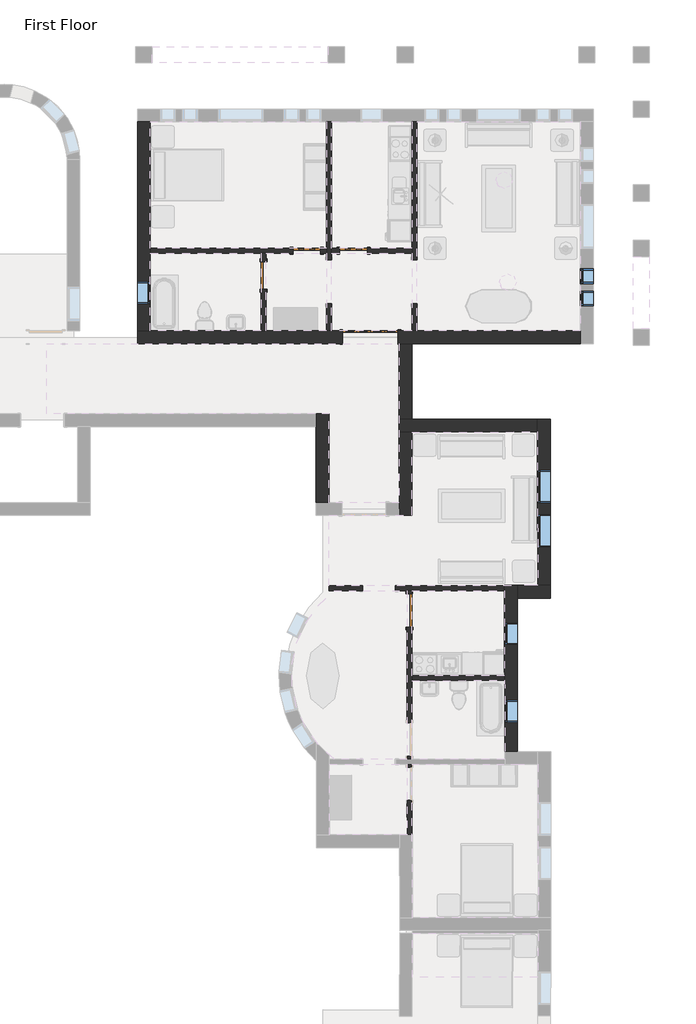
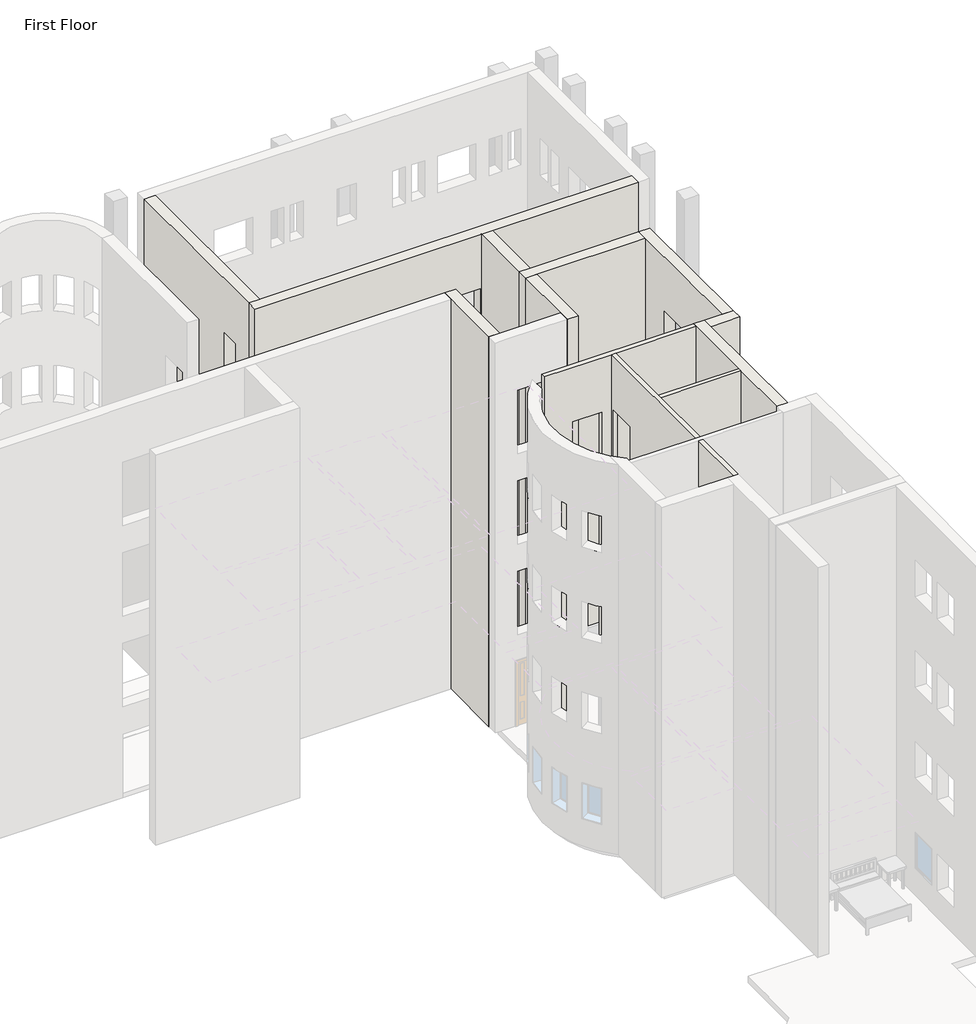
# One storey, part 13 of 23: 16 walls, 7 windows, 5 doors.
"""IFC4 building model written with IfcOpenShell, lengths in millimetres."""

from ifc_helpers import new_model, si_unit, frame, origin, origin_with_axes, place, context, project, spatial, polyline, outline, extrude, faceted_brep, transform, mapped, element, save
from components import m_bifold_4_panel_1525_x_2134mm_1ddae71f, m_single_decorative_2_0762_x_2134mm_0d0af7cb, m_single_decorative_2_0762_x_2134mm_2fe67c8e, m_single_flush_0762_x_2134mm_0d89e411, m_single_flush_0915_x_2134mm_ab9b6334, m_fixed_0406_x_1220mm_85c28f40, m_fixed_0610_x_1220mm_2c28ef1d, m_fixed_0610_x_1220mm_1ea27827, m_fixed_0915_x_1220mm_2a2509e7

model = new_model("IFC4")

# Units and contexts
model_context = context("Model", 3, world=origin())
ifc_project = project(units=[si_unit("LENGTHUNIT", "METRE", prefix="MILLI")], contexts=[model_context])

# Site, building, storey
site = spatial("IfcSite", under=ifc_project)
building = spatial("IfcBuilding", under=site)
storey = spatial("IfcBuildingStorey", under=building, Name="First Floor", Elevation=0.0)

# Doors
placement = place(None, origin())
m_bifold_4_panel_1525_x_2134mm_shape = m_bifold_4_panel_1525_x_2134mm_1ddae71f(model_context)
element("IfcDoor", 1, ObjectType="M_Bifold-4 Panel : 1525 x 2134mm", at=placement, inside=storey, context=model_context, shape_type="MappedRepresentation", body=[
    mapped(m_bifold_4_panel_1525_x_2134mm_shape, transform((-8876.0916203, -3514.8811614, 0.0), x_axis=(1.0, 0.0, 0.0), y_axis=(0.0, 1.0, 0.0), z_axis=(0.0, 0.0, 1.0))),
])
m_single_decorative_2_0762_x_2134mm_shape = m_single_decorative_2_0762_x_2134mm_0d0af7cb(model_context)
element("IfcDoor", 2, ObjectType="M_Single-Decorative 2 : 0762 x 2134mm", at=placement, inside=storey, context=model_context, shape_type="MappedRepresentation", body=[
    mapped(m_single_decorative_2_0762_x_2134mm_shape, transform((-9342.3416203, -1138.1311614, 0.0), x_axis=(-1.0, 0.0, 0.0), y_axis=(0.0, -1.0, 0.0), z_axis=(0.0, 0.0, 1.0))),
])
m_single_decorative_2_0762_x_2134mm_2_shape = m_single_decorative_2_0762_x_2134mm_2fe67c8e(model_context)
element("IfcDoor", 3, ObjectType="M_Single-Decorative 2 : 0762 x 2134mm", at=placement, inside=storey, context=model_context, shape_type="MappedRepresentation", body=[
    mapped(m_single_decorative_2_0762_x_2134mm_2_shape, transform((-10629.0916203, -1138.1311614, 0.0), x_axis=(1.0, 0.0, 0.0), y_axis=(0.0, 1.0, 0.0), z_axis=(0.0, 0.0, 1.0))),
])
m_single_flush_0762_x_2134mm_shape = m_single_flush_0762_x_2134mm_0d89e411(model_context)
element("IfcDoor", 4, ObjectType="M_Single-Flush : 0762 x 2134mm", at=placement, inside=storey, context=model_context, shape_type="MappedRepresentation", body=[
    mapped(m_single_flush_0762_x_2134mm_shape, transform((-11819.5916203, -1815.8811614, 0.0), x_axis=(0.0, 1.0, 0.0), y_axis=(-1.0, 0.0, 0.0), z_axis=(0.0, 0.0, 1.0))),
])
m_single_flush_0915_x_2134mm_shape = m_single_flush_0915_x_2134mm_ab9b6334(model_context)
element("IfcDoor", 5, ObjectType="M_Single-Flush : 0915 x 2134mm", at=placement, inside=storey, context=model_context, shape_type="MappedRepresentation", body=[
    mapped(m_single_flush_0915_x_2134mm_shape, transform((-7803.7915984, -11034.8800064, 0.0), x_axis=(-0.0014474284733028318, 0.9999989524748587, 0.0), y_axis=(-0.9999989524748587, -0.0014474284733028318, 0.0), z_axis=(0.0, 0.0, 1.0))),
])

# Walls
element("IfcWall", 6, ObjectType="Exterior - Brick on Mtl. Stud", at=placement, inside=storey, context=model_context, shape_type="Brep", body=[
    faceted_brep([(-15285.3416203, -3339.8811614, 13107.0), (-14935.3416203, -3339.8811614, 13107.0), (-3093.3416203, -3339.8811614, 13107.0), (-3093.3416203, -3339.8811614, 0.0), (-7597.5916203, -3339.8811614, 0.0), (-7733.0916203, -3339.8811614, 0.0), (-8113.5916203, -3339.8811614, 0.0), (-8113.5916203, -3339.8811614, 2134.0), (-9638.5916203, -3339.8811614, 2134.0), (-9638.5916203, -3339.8811614, 0.0), (-9951.3416203, -3339.8811614, 0.0), (-10086.8416203, -3339.8811614, 0.0), (-11751.8416203, -3339.8811614, 0.0), (-11887.3416203, -3339.8811614, 0.0), (-14935.3416203, -3339.8811614, 0.0), (-15285.3416203, -3339.8811614, 0.0), (-8113.5916203, -3339.8811614, 9144.0), (-8113.5916203, -3339.8811614, 11278.0), (-9638.5916203, -3339.8811614, 11278.0), (-9638.5916203, -3339.8811614, 9144.0), (-8113.5916203, -3339.8811614, 3048.0), (-8113.5916203, -3339.8811614, 5182.0), (-9638.5916203, -3339.8811614, 5182.0), (-9638.5916203, -3339.8811614, 3048.0), (-8113.5916203, -3339.8811614, 6096.0), (-8113.5916203, -3339.8811614, 8230.0), (-9638.5916203, -3339.8811614, 8230.0), (-9638.5916203, -3339.8811614, 6096.0), (-3093.3416203, -3689.8811614, 13107.0), (-15285.3416203, -3689.8811614, 13107.0), (-15285.3416203, -3689.8811614, 0.0), (-9638.5916203, -3689.8811614, 0.0), (-9638.5916203, -3689.8811614, 2134.0), (-8113.5916203, -3689.8811614, 2134.0), (-8113.5916203, -3689.8811614, 0.0), (-3093.3416203, -3689.8811614, 0.0), (-8113.5916203, -3689.8811614, 9144.0), (-9638.5916203, -3689.8811614, 9144.0), (-9638.5916203, -3689.8811614, 11278.0), (-8113.5916203, -3689.8811614, 11278.0), (-8113.5916203, -3689.8811614, 3048.0), (-9638.5916203, -3689.8811614, 3048.0), (-9638.5916203, -3689.8811614, 5182.0), (-8113.5916203, -3689.8811614, 5182.0), (-8113.5916203, -3689.8811614, 6096.0), (-9638.5916203, -3689.8811614, 6096.0), (-9638.5916203, -3689.8811614, 8230.0), (-8113.5916203, -3689.8811614, 8230.0)], [[[0, 1, 2, 3, 4, 5, 6, 7, 8, 9, 10, 11, 12, 13, 14, 15], [16, 17, 18, 19], [20, 21, 22, 23], [24, 25, 26, 27]], [[28, 29, 30, 31, 32, 33, 34, 35], [36, 37, 38, 39], [40, 41, 42, 43], [44, 45, 46, 47]], [[30, 15, 14, 13, 12, 11, 10, 9, 31]], [[3, 35, 34, 6, 5, 4]], [[2, 1, 0, 29, 28]], [[33, 7, 6, 34]], [[7, 33, 32, 8]], [[8, 32, 31, 9]], [[17, 16, 36, 39]], [[18, 17, 39, 38]], [[19, 18, 38, 37]], [[16, 19, 37, 36]], [[21, 20, 40, 43]], [[22, 21, 43, 42]], [[23, 22, 42, 41]], [[20, 23, 41, 40]], [[25, 24, 44, 47]], [[26, 25, 47, 46]], [[27, 26, 46, 45]], [[24, 27, 45, 44]], [[0, 15, 30, 29]], [[3, 2, 28, 35]]]),
])
element("IfcWall", 7, ObjectType="Exterior - Brick on Mtl. Stud", at=placement, inside=storey, context=model_context, shape_type="Brep", body=[
    faceted_brep([(-14935.3416203, -3339.8811614, 0.0), (-14935.3416203, -1205.8811614, 0.0), (-14935.3416203, -1070.3811614, 0.0), (-14935.3416203, 2406.1188386, 0.0), (-14935.3416203, 2406.1188386, 13107.0), (-14935.3416203, -3339.8811614, 13107.0), (-14935.3416203, -1989.8811614, 915.0), (-14935.3416203, -2599.8811614, 915.0), (-14935.3416203, -2599.8811614, 2135.0), (-14935.3416203, -1989.8811614, 2135.0), (-14935.3416203, -1989.8811614, 10059.0), (-14935.3416203, -2599.8811614, 10059.0), (-14935.3416203, -2599.8811614, 11279.0), (-14935.3416203, -1989.8811614, 11279.0), (-14935.3416203, -1989.8811614, 3963.0), (-14935.3416203, -2599.8811614, 3963.0), (-14935.3416203, -2599.8811614, 5183.0), (-14935.3416203, -1989.8811614, 5183.0), (-14935.3416203, -1989.8811614, 7011.0), (-14935.3416203, -2599.8811614, 7011.0), (-14935.3416203, -2599.8811614, 8231.0), (-14935.3416203, -1989.8811614, 8231.0), (-15285.3416203, -3339.8811614, 0.0), (-15285.3416203, -3339.8811614, 13107.0), (-15285.3416203, 2406.1188386, 13107.0), (-15285.3416203, 2406.1188386, 0.0), (-15285.3416203, -1989.8811614, 915.0), (-15285.3416203, -1989.8811614, 2135.0), (-15285.3416203, -2599.8811614, 2135.0), (-15285.3416203, -2599.8811614, 915.0), (-15285.3416203, -1989.8811614, 10059.0), (-15285.3416203, -1989.8811614, 11279.0), (-15285.3416203, -2599.8811614, 11279.0), (-15285.3416203, -2599.8811614, 10059.0), (-15285.3416203, -1989.8811614, 3963.0), (-15285.3416203, -1989.8811614, 5183.0), (-15285.3416203, -2599.8811614, 5183.0), (-15285.3416203, -2599.8811614, 3963.0), (-15285.3416203, -1989.8811614, 7011.0), (-15285.3416203, -1989.8811614, 8231.0), (-15285.3416203, -2599.8811614, 8231.0), (-15285.3416203, -2599.8811614, 7011.0), (-15100.3416203, -3339.8811614, 0.0), (-15100.3416203, 2406.1188386, 0.0)], [[[0, 1, 2, 3, 4, 5], [6, 7, 8, 9], [10, 11, 12, 13], [14, 15, 16, 17], [18, 19, 20, 21]], [[22, 23, 24, 25], [26, 27, 28, 29], [30, 31, 32, 33], [34, 35, 36, 37], [38, 39, 40, 41]], [[5, 4, 24, 23]], [[27, 26, 6, 9]], [[28, 27, 9, 8]], [[29, 28, 8, 7]], [[26, 29, 7, 6]], [[31, 30, 10, 13]], [[32, 31, 13, 12]], [[33, 32, 12, 11]], [[30, 33, 11, 10]], [[35, 34, 14, 17]], [[36, 35, 17, 16]], [[37, 36, 16, 15]], [[34, 37, 15, 14]], [[39, 38, 18, 21]], [[40, 39, 21, 20]], [[41, 40, 20, 19]], [[38, 41, 19, 18]], [[0, 5, 23, 22, 42]], [[4, 3, 43, 25, 24]], [[42, 22, 25, 43]], [[3, 2, 1, 0, 42, 43]]]),
])
element("IfcWall", 8, ObjectType="Exterior - Brick on Mtl. Stud", at=placement, inside=storey, context=model_context, shape_type="Brep", body=[
    faceted_brep([(-8083.0916203, -3689.8811614, 0.0), (-8083.0916203, -5778.2787667, 0.0), (-8083.0916203, -5778.2787667, 13107.0), (-8083.0916203, -3689.8811614, 13107.0), (-7733.0916203, -3689.8811614, 0.0), (-7733.0916203, -3689.8811614, 13107.0), (-7733.0916203, -5777.7721662, 13107.0), (-7733.0916203, -5777.7721662, 0.0), (-7918.0916203, -3689.8811614, 0.0), (-7918.0916203, -5778.0399408, 0.0)], [[[0, 1, 2, 3]], [[4, 5, 6, 7]], [[3, 2, 6, 5]], [[0, 3, 5, 4, 8]], [[8, 4, 7, 9]], [[1, 0, 8, 9]], [[2, 1, 9, 7, 6]]]),
])
element("IfcWall", 9, ObjectType="Exterior - Brick on Mtl. Stud", at=placement, inside=storey, context=model_context, shape_type="Brep", body=[
    faceted_brep([(-10019.0916203, -8067.0833858, 0.0), (-10019.0916203, -5625.8811614, 0.0), (-10019.0916203, -5625.8811614, 13107.0), (-10019.0916203, -8067.0833858, 13107.0), (-10369.0916203, -8067.5899863, 0.0), (-10369.0916203, -8067.5899863, 13107.0), (-10369.0916203, -5975.8811614, 13107.0), (-10369.0916203, -5625.8811614, 13107.0), (-10369.0916203, -5625.8811614, 0.0), (-10369.0916203, -5975.8811614, 0.0)], [[[0, 1, 2, 3]], [[4, 5, 6, 7, 8, 9]], [[1, 0, 4, 9, 8]], [[3, 2, 7, 6, 5]], [[2, 1, 8, 7]], [[0, 3, 5, 4]]]),
])
element("IfcWall", 10, ObjectType="Exterior - Brick on Mtl. Stud", at=placement, inside=storey, context=model_context, shape_type="Brep", body=[
    faceted_brep([(-4827.5685557, -14917.5762036, 0.0), (-4833.6795987, -10695.5806263, 0.0), (-4834.1861987, -10345.5809929, 0.0), (-4834.1861987, -10345.5809929, 13107.0), (-4833.6795987, -10695.5806263, 13107.0), (-4827.5685557, -14917.5762036, 13107.0), (-4829.6194895, -13500.6276879, 915.0), (-4828.7365581, -14110.6270489, 915.0), (-4828.7365581, -14110.6270489, 2135.0), (-4829.6194895, -13500.6276879, 2135.0), (-4832.7077229, -11367.0299229, 915.0), (-4831.8247915, -11977.0292839, 915.0), (-4831.8247915, -11977.0292839, 2135.0), (-4832.7077229, -11367.0299229, 2135.0), (-4832.7077229, -11367.0299229, 10059.0), (-4831.8247915, -11977.0292839, 10059.0), (-4831.8247915, -11977.0292839, 11279.0), (-4832.7077229, -11367.0299229, 11279.0), (-4829.6194895, -13500.6276879, 10059.0), (-4828.7365581, -14110.6270489, 10059.0), (-4828.7365581, -14110.6270489, 11279.0), (-4829.6194895, -13500.6276879, 11279.0), (-4832.7077229, -11367.0299229, 3963.0), (-4831.8247915, -11977.0292839, 3963.0), (-4831.8247915, -11977.0292839, 5183.0), (-4832.7077229, -11367.0299229, 5183.0), (-4829.6194895, -13500.6276879, 3963.0), (-4828.7365581, -14110.6270489, 3963.0), (-4828.7365581, -14110.6270489, 5183.0), (-4829.6194895, -13500.6276879, 5183.0), (-4832.7077229, -11367.0299229, 7011.0), (-4831.8247915, -11977.0292839, 7011.0), (-4831.8247915, -11977.0292839, 8231.0), (-4832.7077229, -11367.0299229, 8231.0), (-4829.6194895, -13500.6276879, 7011.0), (-4828.7365581, -14110.6270489, 7011.0), (-4828.7365581, -14110.6270489, 8231.0), (-4829.6194895, -13500.6276879, 8231.0), (-5177.5681891, -14918.0828036, 0.0), (-5177.5681891, -14918.0828036, 13107.0), (-5180.4031225, -12959.4848553, 13107.0), (-5180.599249, -12823.9849972, 13107.0), (-5183.9792116, -10488.8374433, 13107.0), (-5184.1753382, -10353.3375853, 13107.0), (-5184.185832, -10346.0875929, 13107.0), (-5184.185832, -10346.0875929, 0.0), (-5184.1753382, -10353.3375853, 0.0), (-5183.9792116, -10488.8374433, 0.0), (-5180.599249, -12823.9849972, 0.0), (-5180.4031225, -12959.4848553, 0.0), (-5179.6191228, -13501.1342879, 915.0), (-5179.6191228, -13501.1342879, 2135.0), (-5178.7361915, -14111.1336489, 2135.0), (-5178.7361915, -14111.1336489, 915.0), (-5182.7073562, -11367.5365229, 915.0), (-5182.7073562, -11367.5365229, 2135.0), (-5181.8244249, -11977.5358839, 2135.0), (-5181.8244249, -11977.5358839, 915.0), (-5182.7073562, -11367.5365229, 10059.0), (-5182.7073562, -11367.5365229, 11279.0), (-5181.8244249, -11977.5358839, 11279.0), (-5181.8244249, -11977.5358839, 10059.0), (-5179.6191228, -13501.1342879, 10059.0), (-5179.6191228, -13501.1342879, 11279.0), (-5178.7361915, -14111.1336489, 11279.0), (-5178.7361915, -14111.1336489, 10059.0), (-5182.7073562, -11367.5365229, 3963.0), (-5182.7073562, -11367.5365229, 5183.0), (-5181.8244249, -11977.5358839, 5183.0), (-5181.8244249, -11977.5358839, 3963.0), (-5179.6191228, -13501.1342879, 3963.0), (-5179.6191228, -13501.1342879, 5183.0), (-5178.7361915, -14111.1336489, 5183.0), (-5178.7361915, -14111.1336489, 3963.0), (-5182.7073562, -11367.5365229, 7011.0), (-5182.7073562, -11367.5365229, 8231.0), (-5181.8244249, -11977.5358839, 8231.0), (-5181.8244249, -11977.5358839, 7011.0), (-5179.6191228, -13501.1342879, 7011.0), (-5179.6191228, -13501.1342879, 8231.0), (-5178.7361915, -14111.1336489, 8231.0), (-5178.7361915, -14111.1336489, 7011.0)], [[[0, 1, 2, 3, 4, 5], [6, 7, 8, 9], [10, 11, 12, 13], [14, 15, 16, 17], [18, 19, 20, 21], [22, 23, 24, 25], [26, 27, 28, 29], [30, 31, 32, 33], [34, 35, 36, 37]], [[38, 39, 40, 41, 42, 43, 44, 45, 46, 47, 48, 49], [50, 51, 52, 53], [54, 55, 56, 57], [58, 59, 60, 61], [62, 63, 64, 65], [66, 67, 68, 69], [70, 71, 72, 73], [74, 75, 76, 77], [78, 79, 80, 81]], [[2, 1, 0, 38, 49, 48, 47, 46, 45]], [[5, 4, 3, 44, 43, 42, 41, 40, 39]], [[0, 5, 39, 38]], [[3, 2, 45, 44]], [[51, 50, 6, 9]], [[52, 51, 9, 8]], [[53, 52, 8, 7]], [[50, 53, 7, 6]], [[55, 54, 10, 13]], [[56, 55, 13, 12]], [[57, 56, 12, 11]], [[54, 57, 11, 10]], [[59, 58, 14, 17]], [[60, 59, 17, 16]], [[61, 60, 16, 15]], [[58, 61, 15, 14]], [[63, 62, 18, 21]], [[64, 63, 21, 20]], [[65, 64, 20, 19]], [[62, 65, 19, 18]], [[67, 66, 22, 25]], [[68, 67, 25, 24]], [[69, 68, 24, 23]], [[66, 69, 23, 22]], [[71, 70, 26, 29]], [[72, 71, 29, 28]], [[73, 72, 28, 27]], [[70, 73, 27, 26]], [[75, 74, 30, 33]], [[76, 75, 33, 32]], [[77, 76, 32, 31]], [[74, 77, 31, 30]], [[79, 78, 34, 37]], [[80, 79, 37, 36]], [[81, 80, 36, 35]], [[78, 81, 35, 34]]]),
])
element("IfcWall", 11, ObjectType="Exterior - Brick on Mtl. Stud", at=placement, inside=storey, context=model_context, shape_type="Brep", body=[
    faceted_brep([(-4833.6795987, -10695.5806263, 0.0), (-4104.2803628, -10694.5248719, 0.0), (-3919.2805566, -10694.2570977, 0.0), (-3919.2805566, -10694.2570977, 13107.0), (-4833.6795987, -10695.5806263, 13107.0), (-4834.1861987, -10345.5809929, 0.0), (-4834.1861987, -10345.5809929, 13107.0), (-4269.7867899, -10344.7640643, 13107.0), (-3919.7871565, -10344.2574643, 13107.0), (-3919.7871565, -10344.2574643, 0.0), (-4104.7869627, -10344.5252386, 0.0), (-4269.7867899, -10344.7640643, 0.0), (-4833.947373, -10510.58082, 0.0), (-3919.5483308, -10509.2572915, 0.0), (-4104.548137, -10509.5250657, 0.0)], [[[0, 1, 2, 3, 4]], [[5, 6, 7, 8, 9, 10, 11]], [[4, 3, 8, 7, 6]], [[0, 4, 6, 5, 12]], [[3, 2, 13, 9, 8]], [[10, 9, 13, 14]], [[1, 0, 12, 14]], [[2, 1, 14, 13]], [[12, 5, 11, 10, 14]]]),
])
element("IfcWall", 12, ObjectType="Exterior - Brick on Mtl. Stud", at=placement, inside=storey, context=model_context, shape_type="Brep", body=[
    faceted_brep([(-3919.7871565, -10344.2574643, 0.0), (-3926.1370253, -5957.2620598, 0.0), (-3926.4047995, -5772.2622536, 0.0), (-3926.4047995, -5772.2622536, 13107.0), (-3919.7871565, -10344.2574643, 13107.0), (-3922.6225242, -8385.3595163, 915.0), (-3921.2981271, -9300.3585578, 915.0), (-3921.2981271, -9300.3585578, 2135.0), (-3922.6225242, -8385.3595163, 2135.0), (-3924.387229, -7166.1607934, 915.0), (-3923.0628319, -8081.1598349, 915.0), (-3923.0628319, -8081.1598349, 2135.0), (-3924.387229, -7166.1607934, 2135.0), (-3924.387229, -7166.1607934, 10059.0), (-3923.0628319, -8081.1598349, 10059.0), (-3923.0628319, -8081.1598349, 11279.0), (-3924.387229, -7166.1607934, 11279.0), (-3922.6225242, -8385.3595163, 10059.0), (-3921.2981271, -9300.3585578, 10059.0), (-3921.2981271, -9300.3585578, 11279.0), (-3922.6225242, -8385.3595163, 11279.0), (-3924.387229, -7166.1607934, 3963.0), (-3923.0628319, -8081.1598349, 3963.0), (-3923.0628319, -8081.1598349, 5183.0), (-3924.387229, -7166.1607934, 5183.0), (-3922.6225242, -8385.3595163, 3963.0), (-3921.2981271, -9300.3585578, 3963.0), (-3921.2981271, -9300.3585578, 5183.0), (-3922.6225242, -8385.3595163, 5183.0), (-3924.387229, -7166.1607934, 7011.0), (-3923.0628319, -8081.1598349, 7011.0), (-3923.0628319, -8081.1598349, 8231.0), (-3924.387229, -7166.1607934, 8231.0), (-3922.6225242, -8385.3595163, 7011.0), (-3921.2981271, -9300.3585578, 7011.0), (-3921.2981271, -9300.3585578, 8231.0), (-3922.6225242, -8385.3595163, 8231.0), (-4269.7867899, -10344.7640643, 0.0), (-4269.7867899, -10344.7640643, 13107.0), (-4275.8978329, -6122.7684869, 13107.0), (-4276.4044329, -5772.7688535, 13107.0), (-4276.4044329, -5772.7688535, 0.0), (-4276.1366586, -5957.7686598, 0.0), (-4275.8978329, -6122.7684869, 0.0), (-4272.6221575, -8385.8661163, 915.0), (-4272.6221575, -8385.8661163, 2135.0), (-4271.2977605, -9300.8651578, 2135.0), (-4271.2977605, -9300.8651578, 915.0), (-4274.3868623, -7166.6673934, 915.0), (-4274.3868623, -7166.6673934, 2135.0), (-4273.0624653, -8081.6664349, 2135.0), (-4273.0624653, -8081.6664349, 915.0), (-4274.3868623, -7166.6673934, 10059.0), (-4274.3868623, -7166.6673934, 11279.0), (-4273.0624653, -8081.6664349, 11279.0), (-4273.0624653, -8081.6664349, 10059.0), (-4272.6221575, -8385.8661163, 10059.0), (-4272.6221575, -8385.8661163, 11279.0), (-4271.2977605, -9300.8651578, 11279.0), (-4271.2977605, -9300.8651578, 10059.0), (-4274.3868623, -7166.6673934, 3963.0), (-4274.3868623, -7166.6673934, 5183.0), (-4273.0624653, -8081.6664349, 5183.0), (-4273.0624653, -8081.6664349, 3963.0), (-4272.6221575, -8385.8661163, 3963.0), (-4272.6221575, -8385.8661163, 5183.0), (-4271.2977605, -9300.8651578, 5183.0), (-4271.2977605, -9300.8651578, 3963.0), (-4274.3868623, -7166.6673934, 7011.0), (-4274.3868623, -7166.6673934, 8231.0), (-4273.0624653, -8081.6664349, 8231.0), (-4273.0624653, -8081.6664349, 7011.0), (-4272.6221575, -8385.8661163, 7011.0), (-4272.6221575, -8385.8661163, 8231.0), (-4271.2977605, -9300.8651578, 8231.0), (-4271.2977605, -9300.8651578, 7011.0), (-4104.7869627, -10344.5252386, 0.0), (-4111.4046057, -5772.5300278, 0.0), (-4111.1368315, -5957.5298341, 0.0)], [[[0, 1, 2, 3, 4], [5, 6, 7, 8], [9, 10, 11, 12], [13, 14, 15, 16], [17, 18, 19, 20], [21, 22, 23, 24], [25, 26, 27, 28], [29, 30, 31, 32], [33, 34, 35, 36]], [[37, 38, 39, 40, 41, 42, 43], [44, 45, 46, 47], [48, 49, 50, 51], [52, 53, 54, 55], [56, 57, 58, 59], [60, 61, 62, 63], [64, 65, 66, 67], [68, 69, 70, 71], [72, 73, 74, 75]], [[4, 3, 40, 39, 38]], [[0, 4, 38, 37, 76]], [[3, 2, 77, 41, 40]], [[45, 44, 5, 8]], [[46, 45, 8, 7]], [[47, 46, 7, 6]], [[44, 47, 6, 5]], [[49, 48, 9, 12]], [[50, 49, 12, 11]], [[51, 50, 11, 10]], [[48, 51, 10, 9]], [[42, 41, 77, 78]], [[1, 0, 76, 78]], [[2, 1, 78, 77]], [[53, 52, 13, 16]], [[54, 53, 16, 15]], [[55, 54, 15, 14]], [[52, 55, 14, 13]], [[57, 56, 17, 20]], [[58, 57, 20, 19]], [[59, 58, 19, 18]], [[56, 59, 18, 17]], [[61, 60, 21, 24]], [[62, 61, 24, 23]], [[63, 62, 23, 22]], [[60, 63, 22, 21]], [[65, 64, 25, 28]], [[66, 65, 28, 27]], [[67, 66, 27, 26]], [[64, 67, 26, 25]], [[69, 68, 29, 32]], [[70, 69, 32, 31]], [[71, 70, 31, 30]], [[68, 71, 30, 29]], [[73, 72, 33, 36]], [[74, 73, 36, 35]], [[75, 74, 35, 34]], [[72, 75, 34, 33]], [[76, 37, 43, 42, 78]]]),
])
element("IfcWall", 13, ObjectType="Exterior - Brick on Mtl. Stud", at=placement, inside=storey, context=model_context, shape_type="Brep", body=[
    faceted_brep([(-4276.4044329, -5772.7688535, 0.0), (-7733.0916203, -5777.7721662, 0.0), (-7901.4006356, -5778.0157818, 0.0), (-8083.0916203, -5778.2787667, 0.0), (-8086.4004418, -5778.283556, 0.0), (-8086.4004418, -5778.283556, 13107.0), (-8083.0916203, -5778.2787667, 13107.0), (-7733.0916203, -5777.7721662, 13107.0), (-4276.4044329, -5772.7688535, 13107.0), (-4275.8978329, -6122.7684869, 0.0), (-4275.8978329, -6122.7684869, 13107.0), (-7735.8942085, -6127.7765894, 13107.0), (-8085.8938418, -6128.2831894, 13107.0), (-8085.8938418, -6128.2831894, 0.0), (-7900.8940356, -6128.0154151, 0.0), (-7735.8942085, -6127.7765894, 0.0), (-4276.1366586, -5957.7686598, 0.0), (-8086.1326675, -5963.2833622, 0.0), (-7901.1328613, -5963.015588, 0.0)], [[[0, 1, 2, 3, 4, 5, 6, 7, 8]], [[9, 10, 11, 12, 13, 14, 15]], [[8, 7, 6, 5, 12, 11, 10]], [[0, 8, 10, 9, 16]], [[5, 4, 17, 13, 12]], [[14, 13, 17, 18]], [[2, 1, 0, 16, 18]], [[4, 3, 2, 18, 17]], [[16, 9, 15, 14, 18]]]),
])
element("IfcWall", 14, ObjectType="Exterior - Brick on Mtl. Stud", at=placement, inside=storey, context=model_context, shape_type="Brep", body=[
    faceted_brep([(-8085.8938418, -6128.2831894, 0.0), (-8083.0916203, -8064.2811614, 0.0), (-8082.8238461, -8249.2809676, 0.0), (-8082.5850204, -8414.2807948, 0.0), (-8082.5850204, -8414.2807948, 13107.0), (-8083.0916203, -8064.2811614, 13107.0), (-8085.8938418, -6128.2831894, 13107.0), (-7732.585387, -8413.7741948, 0.0), (-7735.8942085, -6127.7765894, 0.0), (-7735.8942085, -6127.7765894, 13107.0), (-7732.585387, -8413.7741948, 13107.0), (-7900.8940356, -6128.0154151, 0.0), (-7897.8240398, -8249.0131933, 0.0), (-7897.5852142, -8414.0130205, 0.0)], [[[0, 1, 2, 3, 4, 5, 6]], [[7, 8, 9, 10]], [[6, 5, 4, 10, 9]], [[0, 6, 9, 8, 11]], [[2, 1, 0, 11, 12]], [[11, 8, 7, 13, 3, 2, 12]], [[4, 3, 13, 7, 10]]]),
])
element("IfcWall", 15, ObjectType="Interior - 135mm Partition (2-hr)", at=placement, inside=storey, context=model_context, shape_type="Brep", body=[
    faceted_brep([(-7733.0916203, 2406.1188386, 0.0), (-7733.0916203, -1070.3811614, 0.0), (-7733.0916203, -1205.8811614, 0.0), (-7733.0916203, -1380.8811614, 0.0), (-7733.0916203, -1380.8811614, 2134.0), (-7733.0916203, -2600.8811614, 2134.0), (-7733.0916203, -2600.8811614, 0.0), (-7733.0916203, -3339.8811614, 0.0), (-7733.0916203, -3339.8811614, 3048.0), (-7733.0916203, -1205.8811614, 3048.0), (-7733.0916203, -1070.3811614, 3048.0), (-7733.0916203, 2406.1188386, 3048.0), (-7597.5916203, -1380.8811614, 2134.0), (-7597.5916203, -1380.8811614, 0.0), (-7597.5916203, 2406.1188386, 0.0), (-7597.5916203, 2406.1188386, 3048.0), (-7597.5916203, -3339.8811614, 3048.0), (-7597.5916203, -3339.8811614, 0.0), (-7597.5916203, -2600.8811614, 0.0), (-7597.5916203, -2600.8811614, 2134.0)], [[[0, 1, 2, 3, 4, 5, 6, 7, 8, 9, 10, 11]], [[12, 13, 14, 15, 16, 17, 18, 19]], [[18, 17, 7, 6]], [[14, 13, 3, 2, 1, 0]], [[11, 10, 9, 8, 16, 15]], [[6, 5, 19, 18]], [[4, 3, 13, 12]], [[5, 4, 12, 19]], [[8, 7, 17, 16]], [[0, 11, 15, 14]]]),
])
element("IfcWall", 16, ObjectType="Interior - 135mm Partition (2-hr)", at=placement, inside=storey, context=model_context, shape_type="Brep", body=[
    faceted_brep([(-10086.8416203, -2600.8811614, 2134.0), (-10086.8416203, -2600.8811614, 0.0), (-10086.8416203, -3339.8811614, 0.0), (-10086.8416203, -3339.8811614, 3048.0), (-10086.8416203, -1205.8811614, 3048.0), (-10086.8416203, -1070.3811614, 3048.0), (-10086.8416203, 2406.1188386, 3048.0), (-10086.8416203, 2406.1188386, 0.0), (-10086.8416203, -1070.3811614, 0.0), (-10086.8416203, -1205.8811614, 0.0), (-10086.8416203, -1380.8811614, 0.0), (-10086.8416203, -1380.8811614, 2134.0), (-9951.3416203, -3339.8811614, 0.0), (-9951.3416203, -2600.8811614, 0.0), (-9951.3416203, -2600.8811614, 2134.0), (-9951.3416203, -1380.8811614, 2134.0), (-9951.3416203, -1380.8811614, 0.0), (-9951.3416203, -1205.8811614, 0.0), (-9951.3416203, -1070.3811614, 0.0), (-9951.3416203, 2406.1188386, 0.0), (-9951.3416203, 2406.1188386, 3048.0), (-9951.3416203, -1070.3811614, 3048.0), (-9951.3416203, -1205.8811614, 3048.0), (-9951.3416203, -3339.8811614, 3048.0)], [[[0, 1, 2, 3, 4, 5, 6, 7, 8, 9, 10, 11]], [[12, 13, 14, 15, 16, 17, 18, 19, 20, 21, 22, 23]], [[2, 1, 13, 12]], [[10, 9, 8, 7, 19, 18, 17, 16]], [[6, 5, 4, 3, 23, 22, 21, 20]], [[16, 15, 11, 10]], [[14, 13, 1, 0]], [[15, 14, 0, 11]], [[3, 2, 12, 23]], [[7, 6, 20, 19]]]),
])
element("IfcWall", 17, ObjectType="Interior - 135mm Partition (2-hr)", at=placement, inside=storey, context=model_context, shape_type="Brep", body=[
    faceted_brep([(-9723.3416203, -1205.8811614, 0.0), (-9723.3416203, -1205.8811614, 2134.0), (-8961.3416203, -1205.8811614, 2134.0), (-8961.3416203, -1205.8811614, 0.0), (-7733.0916203, -1205.8811614, 0.0), (-7733.0916203, -1205.8811614, 3048.0), (-9951.3416203, -1205.8811614, 3048.0), (-9951.3416203, -1205.8811614, 0.0), (-9723.3416203, -1070.3811614, 2134.0), (-9723.3416203, -1070.3811614, 0.0), (-9951.3416203, -1070.3811614, 0.0), (-9951.3416203, -1070.3811614, 3048.0), (-7733.0916203, -1070.3811614, 3048.0), (-7733.0916203, -1070.3811614, 0.0), (-8961.3416203, -1070.3811614, 0.0), (-8961.3416203, -1070.3811614, 2134.0)], [[[0, 1, 2, 3, 4, 5, 6, 7]], [[8, 9, 10, 11, 12, 13, 14, 15]], [[9, 0, 7, 10]], [[3, 14, 13, 4]], [[5, 12, 11, 6]], [[1, 0, 9, 8]], [[2, 1, 8, 15]], [[3, 2, 15, 14]], [[5, 4, 13, 12]], [[7, 6, 11, 10]]]),
    faceted_brep([(-10248.0916203, -1205.8811614, 2134.0), (-10248.0916203, -1205.8811614, 0.0), (-10086.8416203, -1205.8811614, 0.0), (-10086.8416203, -1205.8811614, 3048.0), (-11751.8416203, -1205.8811614, 3048.0), (-11887.3416203, -1205.8811614, 3048.0), (-14935.3416203, -1205.8811614, 3048.0), (-14935.3416203, -1205.8811614, 0.0), (-11887.3416203, -1205.8811614, 0.0), (-11751.8416203, -1205.8811614, 0.0), (-11010.0916203, -1205.8811614, 0.0), (-11010.0916203, -1205.8811614, 2134.0), (-10248.0916203, -1070.3811614, 0.0), (-10248.0916203, -1070.3811614, 2134.0), (-11010.0916203, -1070.3811614, 2134.0), (-11010.0916203, -1070.3811614, 0.0), (-14935.3416203, -1070.3811614, 0.0), (-14935.3416203, -1070.3811614, 3048.0), (-10086.8416203, -1070.3811614, 3048.0), (-10086.8416203, -1070.3811614, 0.0)], [[[0, 1, 2, 3, 4, 5, 6, 7, 8, 9, 10, 11]], [[12, 13, 14, 15, 16, 17, 18, 19]], [[1, 12, 19, 2]], [[15, 10, 9, 8, 7, 16]], [[17, 6, 5, 4, 3, 18]], [[13, 12, 1, 0]], [[14, 13, 0, 11]], [[15, 14, 11, 10]], [[7, 6, 17, 16]], [[3, 2, 19, 18]]]),
])
element("IfcWall", 18, ObjectType="Interior - 135mm Partition (2-hr)", at=placement, inside=storey, context=model_context, shape_type="SweptSolid", body=[
    extrude(outline(polyline([(-1205.8811614, 0.0), (-1434.8811614, 0.0), (-1434.8811614, 2134.0), (-2196.8811614, 2134.0), (-2196.8811614, 0.0), (-3339.8811614, 0.0), (-3339.8811614, 3048.0), (-1205.8811614, 3048.0), (-1205.8811614, 0.0)])), frame((-11887.3416203, 0.0, 0.0), z_axis=(1.0, 0.0, 0.0), x_axis=(0.0, 1.0, 0.0)), (0.0, 0.0, 1.0), 135.5),
])
element("IfcWall", 19, ObjectType="Interior - 135mm Partition (2-hr)", at=placement, inside=storey, context=model_context, shape_type="Brep", body=[
    faceted_brep([(-9100.4712358, -10359.0061494, 2134.0), (-9100.4712358, -10359.0061494, 0.0), (-10015.770277, -10360.3309807, 0.0), (-10015.770277, -10360.3309807, 13107.0), (-5184.1753382, -10353.3375853, 13107.0), (-5184.1753382, -10353.3375853, 0.0), (-8185.4721943, -10357.6817523, 0.0), (-8185.4721943, -10357.6817523, 2134.0), (-8185.4721943, -10357.6817523, 11278.0), (-9100.4712358, -10359.0061494, 11278.0), (-9100.4712358, -10359.0061494, 9144.0), (-8185.4721943, -10357.6817523, 9144.0), (-8185.4721943, -10357.6817523, 5182.0), (-9100.4712358, -10359.0061494, 5182.0), (-9100.4712358, -10359.0061494, 3048.0), (-8185.4721943, -10357.6817523, 3048.0), (-8185.4721943, -10357.6817523, 8230.0), (-9100.4712358, -10359.0061494, 8230.0), (-9100.4712358, -10359.0061494, 6096.0), (-8185.4721943, -10357.6817523, 6096.0), (-10015.5741504, -10495.8308387, 0.0), (-9100.2751092, -10494.5060075, 0.0), (-9100.2751092, -10494.5060075, 2134.0), (-8185.2760677, -10493.1816104, 2134.0), (-8185.2760677, -10493.1816104, 0.0), (-7872.3263955, -10492.7286377, 0.0), (-7736.8265375, -10492.5325111, 0.0), (-5183.9792116, -10488.8374433, 0.0), (-5183.9792116, -10488.8374433, 13107.0), (-7736.8265375, -10492.5325111, 13107.0), (-7872.3263955, -10492.7286377, 13107.0), (-10015.5741504, -10495.8308387, 13107.0), (-8185.2760677, -10493.1816104, 11278.0), (-8185.2760677, -10493.1816104, 9144.0), (-9100.2751092, -10494.5060075, 9144.0), (-9100.2751092, -10494.5060075, 11278.0), (-8185.2760677, -10493.1816104, 5182.0), (-8185.2760677, -10493.1816104, 3048.0), (-9100.2751092, -10494.5060075, 3048.0), (-9100.2751092, -10494.5060075, 5182.0), (-8185.2760677, -10493.1816104, 8230.0), (-8185.2760677, -10493.1816104, 6096.0), (-9100.2751092, -10494.5060075, 6096.0), (-9100.2751092, -10494.5060075, 8230.0)], [[[0, 1, 2, 3, 4, 5, 6, 7], [8, 9, 10, 11], [12, 13, 14, 15], [16, 17, 18, 19]], [[20, 21, 22, 23, 24, 25, 26, 27, 28, 29, 30, 31], [32, 33, 34, 35], [36, 37, 38, 39], [40, 41, 42, 43]], [[6, 5, 27, 26, 25, 24]], [[2, 1, 21, 20]], [[4, 3, 31, 30, 29, 28]], [[5, 4, 28, 27]], [[3, 2, 20, 31]], [[24, 23, 7, 6]], [[22, 21, 1, 0]], [[23, 22, 0, 7]], [[33, 32, 8, 11]], [[34, 33, 11, 10]], [[35, 34, 10, 9]], [[32, 35, 9, 8]], [[37, 36, 12, 15]], [[38, 37, 15, 14]], [[39, 38, 14, 13]], [[36, 39, 13, 12]], [[41, 40, 16, 19]], [[42, 41, 19, 18]], [[43, 42, 18, 17]], [[40, 43, 17, 16]]]),
])
element("IfcWall", 20, ObjectType="Interior - 135mm Partition (2-hr)", at=placement, inside=storey, context=model_context, shape_type="Brep", body=[
    faceted_brep([(-7727.1066934, -17207.7754767, 13107.0), (-7727.1066934, -17207.7754767, 0.0), (-7728.47777, -16260.526469, 0.0), (-7728.47777, -16260.526469, 2134.0), (-7729.8021671, -15345.5274275, 2134.0), (-7729.8021671, -15345.5274275, 0.0), (-7729.9194088, -15264.5275123, 0.0), (-7729.9194088, -15264.5275123, 13107.0), (-7729.8021671, -15345.5274275, 9144.0), (-7728.47777, -16260.526469, 9144.0), (-7728.47777, -16260.526469, 11278.0), (-7729.8021671, -15345.5274275, 11278.0), (-7729.8021671, -15345.5274275, 3048.0), (-7728.47777, -16260.526469, 3048.0), (-7728.47777, -16260.526469, 5182.0), (-7729.8021671, -15345.5274275, 5182.0), (-7729.8021671, -15345.5274275, 6096.0), (-7728.47777, -16260.526469, 6096.0), (-7728.47777, -16260.526469, 8230.0), (-7729.8021671, -15345.5274275, 8230.0), (-7862.6065515, -17207.9716033, 0.0), (-7862.6065515, -17207.9716033, 13107.0), (-7865.4192668, -15264.7236389, 13107.0), (-7865.4192668, -15264.7236389, 0.0), (-7865.3020251, -15345.723554, 0.0), (-7865.3020251, -15345.723554, 2134.0), (-7863.9776281, -16260.7225955, 2134.0), (-7863.9776281, -16260.7225955, 0.0), (-7863.9776281, -16260.7225955, 9144.0), (-7865.3020251, -15345.723554, 9144.0), (-7865.3020251, -15345.723554, 11278.0), (-7863.9776281, -16260.7225955, 11278.0), (-7863.9776281, -16260.7225955, 3048.0), (-7865.3020251, -15345.723554, 3048.0), (-7865.3020251, -15345.723554, 5182.0), (-7863.9776281, -16260.7225955, 5182.0), (-7863.9776281, -16260.7225955, 6096.0), (-7865.3020251, -15345.723554, 6096.0), (-7865.3020251, -15345.723554, 8230.0), (-7863.9776281, -16260.7225955, 8230.0)], [[[0, 1, 2, 3, 4, 5, 6, 7], [8, 9, 10, 11], [12, 13, 14, 15], [16, 17, 18, 19]], [[20, 21, 22, 23, 24, 25, 26, 27], [28, 29, 30, 31], [32, 33, 34, 35], [36, 37, 38, 39]], [[1, 20, 27, 2]], [[5, 24, 23, 6]], [[21, 0, 7, 22]], [[1, 0, 21, 20]], [[7, 6, 23, 22]], [[4, 25, 24, 5]], [[25, 4, 3, 26]], [[26, 3, 2, 27]], [[29, 28, 9, 8]], [[30, 29, 8, 11]], [[31, 30, 11, 10]], [[28, 31, 10, 9]], [[33, 32, 13, 12]], [[34, 33, 12, 15]], [[35, 34, 15, 14]], [[32, 35, 14, 13]], [[37, 36, 17, 16]], [[38, 37, 16, 19]], [[39, 38, 19, 18]], [[36, 39, 18, 17]]]),
    faceted_brep([(-7736.8265375, -10492.5325111, 0.0), (-7736.8265375, -10492.5325111, 13107.0), (-7733.4465749, -12827.680065, 13107.0), (-7733.2504483, -12963.179923, 13107.0), (-7730.1155353, -15129.0276542, 13107.0), (-7730.1155353, -15129.0276542, 0.0), (-7730.2436328, -15040.527747, 0.0), (-7730.2436328, -15040.527747, 2134.0), (-7731.5680298, -14125.5287054, 2134.0), (-7731.5680298, -14125.5287054, 0.0), (-7733.2504483, -12963.179923, 0.0), (-7733.4465749, -12827.680065, 0.0), (-7735.3794708, -11492.2814638, 0.0), (-7735.3794708, -11492.2814638, 2134.0), (-7736.7038679, -10577.2824223, 2134.0), (-7736.7038679, -10577.2824223, 0.0), (-7736.7038679, -10577.2824223, 9144.0), (-7735.3794708, -11492.2814638, 9144.0), (-7735.3794708, -11492.2814638, 11278.0), (-7736.7038679, -10577.2824223, 11278.0), (-7731.5680298, -14125.5287054, 9144.0), (-7730.2436328, -15040.527747, 9144.0), (-7730.2436328, -15040.527747, 11278.0), (-7731.5680298, -14125.5287054, 11278.0), (-7736.7038679, -10577.2824223, 3048.0), (-7735.3794708, -11492.2814638, 3048.0), (-7735.3794708, -11492.2814638, 5182.0), (-7736.7038679, -10577.2824223, 5182.0), (-7731.5680298, -14125.5287054, 3048.0), (-7730.2436328, -15040.527747, 3048.0), (-7730.2436328, -15040.527747, 5182.0), (-7731.5680298, -14125.5287054, 5182.0), (-7736.7038679, -10577.2824223, 6096.0), (-7735.3794708, -11492.2814638, 6096.0), (-7735.3794708, -11492.2814638, 8230.0), (-7736.7038679, -10577.2824223, 8230.0), (-7731.5680298, -14125.5287054, 6096.0), (-7730.2436328, -15040.527747, 6096.0), (-7730.2436328, -15040.527747, 8230.0), (-7731.5680298, -14125.5287054, 8230.0), (-7872.3263955, -10492.7286377, 13107.0), (-7872.3263955, -10492.7286377, 0.0), (-7872.203726, -10577.4785489, 0.0), (-7872.203726, -10577.4785489, 2134.0), (-7870.8793289, -11492.4775904, 2134.0), (-7870.8793289, -11492.4775904, 0.0), (-7867.0678879, -14125.724832, 0.0), (-7867.0678879, -14125.724832, 2134.0), (-7865.7434908, -15040.7238735, 2134.0), (-7865.7434908, -15040.7238735, 0.0), (-7865.6153934, -15129.2237808, 0.0), (-7865.6153934, -15129.2237808, 13107.0), (-7870.8793289, -11492.4775904, 9144.0), (-7872.203726, -10577.4785489, 9144.0), (-7872.203726, -10577.4785489, 11278.0), (-7870.8793289, -11492.4775904, 11278.0), (-7865.7434908, -15040.7238735, 9144.0), (-7867.0678879, -14125.724832, 9144.0), (-7867.0678879, -14125.724832, 11278.0), (-7865.7434908, -15040.7238735, 11278.0), (-7870.8793289, -11492.4775904, 3048.0), (-7872.203726, -10577.4785489, 3048.0), (-7872.203726, -10577.4785489, 5182.0), (-7870.8793289, -11492.4775904, 5182.0), (-7865.7434908, -15040.7238735, 3048.0), (-7867.0678879, -14125.724832, 3048.0), (-7867.0678879, -14125.724832, 5182.0), (-7865.7434908, -15040.7238735, 5182.0), (-7870.8793289, -11492.4775904, 6096.0), (-7872.203726, -10577.4785489, 6096.0), (-7872.203726, -10577.4785489, 8230.0), (-7870.8793289, -11492.4775904, 8230.0), (-7865.7434908, -15040.7238735, 6096.0), (-7867.0678879, -14125.724832, 6096.0), (-7867.0678879, -14125.724832, 8230.0), (-7865.7434908, -15040.7238735, 8230.0)], [[[0, 1, 2, 3, 4, 5, 6, 7, 8, 9, 10, 11, 12, 13, 14, 15], [16, 17, 18, 19], [20, 21, 22, 23], [24, 25, 26, 27], [28, 29, 30, 31], [32, 33, 34, 35], [36, 37, 38, 39]], [[40, 41, 42, 43, 44, 45, 46, 47, 48, 49, 50, 51], [52, 53, 54, 55], [56, 57, 58, 59], [60, 61, 62, 63], [64, 65, 66, 67], [68, 69, 70, 71], [72, 73, 74, 75]], [[41, 0, 15, 42]], [[49, 6, 5, 50]], [[9, 46, 45, 12, 11, 10]], [[1, 40, 51, 4, 3, 2]], [[1, 0, 41, 40]], [[5, 4, 51, 50]], [[7, 6, 49, 48]], [[8, 7, 48, 47]], [[9, 8, 47, 46]], [[43, 42, 15, 14]], [[44, 43, 14, 13]], [[45, 44, 13, 12]], [[53, 52, 17, 16]], [[54, 53, 16, 19]], [[55, 54, 19, 18]], [[52, 55, 18, 17]], [[21, 20, 57, 56]], [[22, 21, 56, 59]], [[23, 22, 59, 58]], [[20, 23, 58, 57]], [[61, 60, 25, 24]], [[62, 61, 24, 27]], [[63, 62, 27, 26]], [[60, 63, 26, 25]], [[29, 28, 65, 64]], [[30, 29, 64, 67]], [[31, 30, 67, 66]], [[28, 31, 66, 65]], [[69, 68, 33, 32]], [[70, 69, 32, 35]], [[71, 70, 35, 34]], [[68, 71, 34, 33]], [[37, 36, 73, 72]], [[38, 37, 72, 75]], [[39, 38, 75, 74]], [[36, 39, 74, 73]]]),
])
element("IfcWall", 21, ObjectType="Interior - 135mm Partition (2-hr)", at=placement, inside=storey, context=model_context, shape_type="SweptSolid", body=[
    extrude(outline(polyline([(-7733.4465749, -12827.680065), (-5180.599249, -12823.9849972), (-5180.4031225, -12959.4848553), (-7733.2504483, -12963.179923), (-7733.4465749, -12827.680065)])), origin_with_axes(), (0.0, 0.0, 1.0), 13107.0),
])

# Windows
m_fixed_0406_x_1220mm_shape = m_fixed_0406_x_1220mm_85c28f40(model_context)
element("IfcWindow", 22, ObjectType="M_Fixed : 0406 x 1220mm", at=placement, inside=storey, context=model_context, shape_type="MappedRepresentation", body=[
    mapped(m_fixed_0406_x_1220mm_shape, transform((-2905.3416203, -2447.8811614, 0.0), x_axis=(0.0, -1.0, 0.0), y_axis=(1.0, 0.0, 0.0), z_axis=(0.0, 0.0, 1.0))),
])
element("IfcWindow", 23, ObjectType="M_Fixed : 0406 x 1220mm", at=placement, inside=storey, context=model_context, shape_type="MappedRepresentation", body=[
    mapped(m_fixed_0406_x_1220mm_shape, transform((-2905.3416203, -1837.8811614, 0.0), x_axis=(0.0, -1.0, 0.0), y_axis=(1.0, 0.0, 0.0), z_axis=(0.0, 0.0, 1.0))),
])
m_fixed_0610_x_1220mm_shape = m_fixed_0610_x_1220mm_2c28ef1d(model_context)
element("IfcWindow", 24, ObjectType="M_Fixed : 0610 x 1220mm", at=placement, inside=storey, context=model_context, shape_type="MappedRepresentation", body=[
    mapped(m_fixed_0610_x_1220mm_shape, transform((-15123.3416203, -2294.8811614, 0.0), x_axis=(0.0, -1.0, 0.0), y_axis=(1.0, 0.0, 0.0), z_axis=(0.0, 0.0, 1.0))),
])
m_fixed_0610_x_1220mm_2_shape = m_fixed_0610_x_1220mm_1ea27827(model_context)
element("IfcWindow", 25, ObjectType="M_Fixed : 0610 x 1220mm", at=placement, inside=storey, context=model_context, shape_type="MappedRepresentation", body=[
    mapped(m_fixed_0610_x_1220mm_2_shape, transform((-4991.1778541, -13805.8618518, 0.0), x_axis=(0.0014474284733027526, -0.9999989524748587, 0.0), y_axis=(0.9999989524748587, 0.0014474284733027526, 0.0), z_axis=(0.0, 0.0, 1.0))),
])
element("IfcWindow", 26, ObjectType="M_Fixed : 0610 x 1220mm", at=placement, inside=storey, context=model_context, shape_type="MappedRepresentation", body=[
    mapped(m_fixed_0610_x_1220mm_2_shape, transform((-4994.2660875, -11672.2640868, 0.0), x_axis=(0.0014474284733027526, -0.9999989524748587, 0.0), y_axis=(0.9999989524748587, 0.0014474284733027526, 0.0), z_axis=(0.0, 0.0, 1.0))),
])
m_fixed_0915_x_1220mm_shape = m_fixed_0915_x_1220mm_2a2509e7(model_context)
element("IfcWindow", 27, ObjectType="M_Fixed : 0915 x 1220mm", at=placement, inside=storey, context=model_context, shape_type="MappedRepresentation", body=[
    mapped(m_fixed_0915_x_1220mm_shape, transform((-4083.960156, -8843.0935205, 0.0), x_axis=(0.0014474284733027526, -0.9999989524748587, 0.0), y_axis=(0.9999989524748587, 0.0014474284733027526, 0.0), z_axis=(0.0, 0.0, 1.0))),
])
element("IfcWindow", 28, ObjectType="M_Fixed : 0915 x 1220mm", at=placement, inside=storey, context=model_context, shape_type="MappedRepresentation", body=[
    mapped(m_fixed_0915_x_1220mm_shape, transform((-4085.7248607, -7623.8947976, 0.0), x_axis=(0.0014474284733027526, -0.9999989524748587, 0.0), y_axis=(0.9999989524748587, 0.0014474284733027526, 0.0), z_axis=(0.0, 0.0, 1.0))),
])

save(model, "model.ifc")
